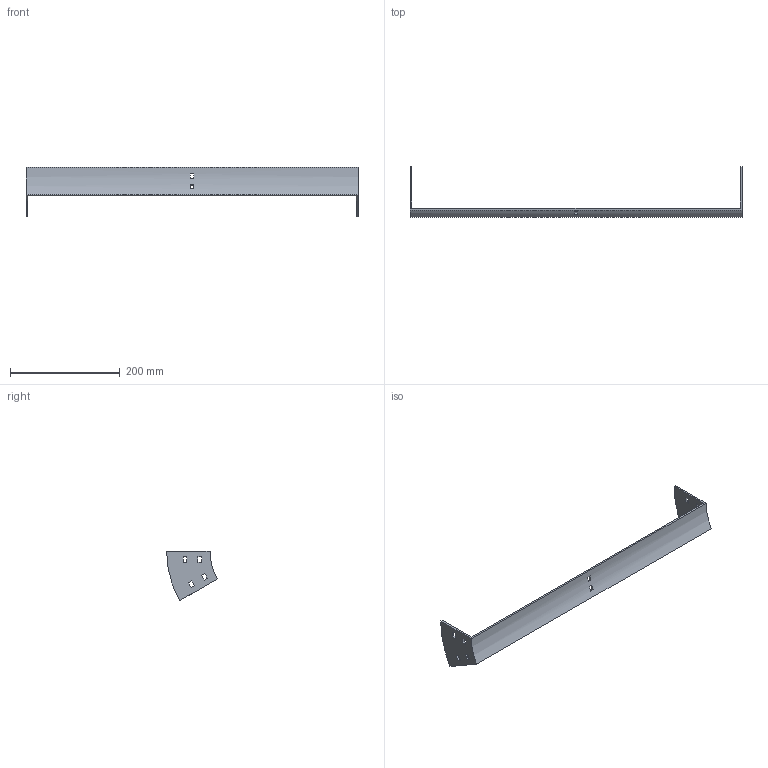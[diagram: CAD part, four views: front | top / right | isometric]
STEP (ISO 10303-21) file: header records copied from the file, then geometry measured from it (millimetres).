
FILE_DESCRIPTION (( 'STEP AP214' ), '1' );
FILE_NAME ('35B1C600.step', '2025-02-21T09:26:42', ( '' ), ( '' ), 'SwSTEP 2.0', 'SolidWorks 2023', '' );
FILE_SCHEMA (( 'AUTOMOTIVE_DESIGN' ));
Length unit declared in the file: millimetre
Products named in the file (1): 35B1C600
Bounding box: 604 x 92.4 x 89.5 mm (x, y, z)
Volume: 149337.7 mm3; surface area: 92442.5 mm2
Topology: 1 solids, 1 shells, 50 faces, 144 edges, 96 vertices
Faces by surface type: plane 46, cylinder 4
Entity records: 1687 total; most frequent: CARTESIAN_POINT 291, ORIENTED_EDGE 288, DIRECTION 262, EDGE_CURVE 144, VECTOR 128, LINE 128, VERTEX_POINT 96, EDGE_LOOP 70
